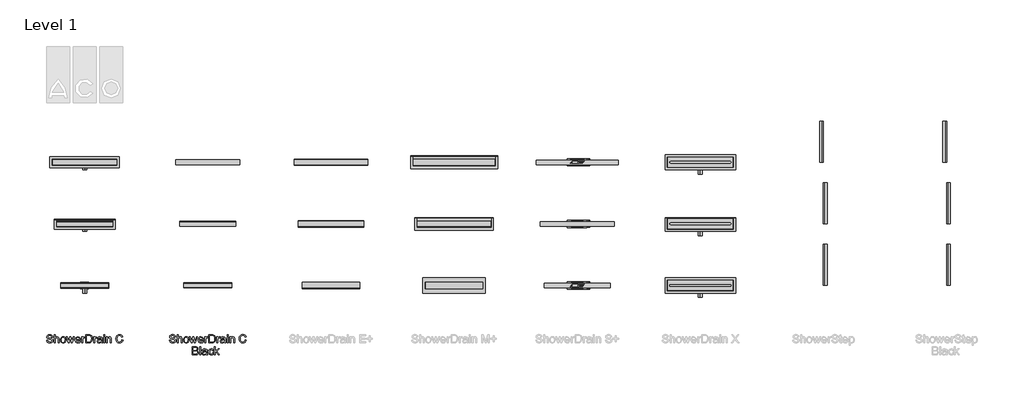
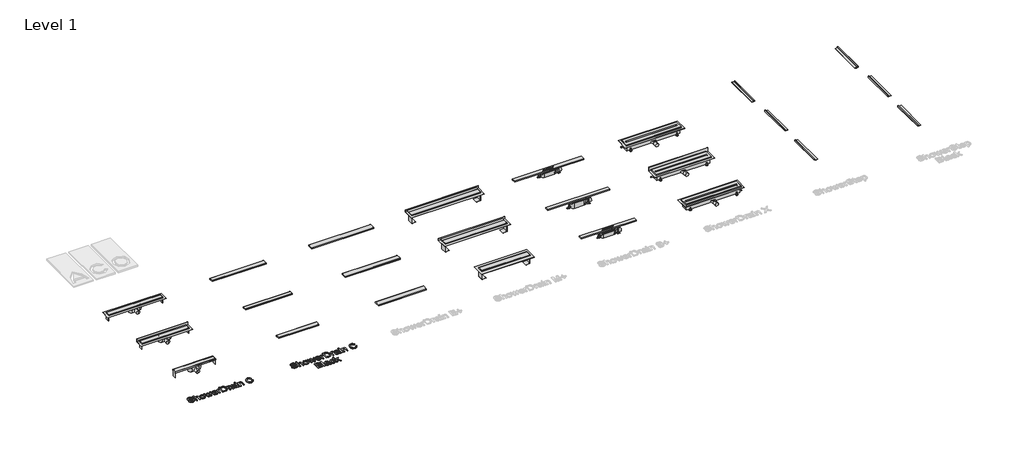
# One storey, part 1 of 3: 34 sanitary terminals, 2 proxies.
"""IFC4 building model written with IfcOpenShell, lengths in millimetres."""

from ifc_helpers import new_model, si_unit, origin, origin_with_axes, place, context, project, spatial, polyline, outline, extrude, transform, mapped, element, save
from components import sanitary_terminal_b0e54eb0, sanitary_terminal_4bfb4d3e, sanitary_terminal_83286328, sanitary_terminal_e4b8e917, glass_black_2b985351, linear_b26b8363, mix_c74ceb65, mix_745113d3, piano_67668155, piano_823838a0, twist_c8336379, wave_fc92086e, horizontal_flange_fb927bfa, horizontal_flange_77aa5604, horizontal_flange_18f63413, no_flange_with_horizontal_connection_4faf3c92, std_nested_d8f77656, std_nested_2f341021, std_nested_3a278fe4, std_nested_42870411, std_nested_2facc37a, std_nested_d991f233, std_nested_00a3679f, wall_flange_c72accb7, wall_flange_at_rear_d2ec3d99, wall_flange_at_rear_64e26d31, wall_flange_with_horizontal_connection_48dca029

model = new_model("IFC4")

# Units and contexts
model_context = context("Model", 3, world=origin())
ifc_project = project(units=[si_unit("LENGTHUNIT", "METRE", prefix="MILLI")], contexts=[model_context])

# Site, building, storey
site = spatial("IfcSite", under=ifc_project)
building = spatial("IfcBuilding", under=site)
storey = spatial("IfcBuildingStorey", under=building, Name="Level 1", Elevation=0.0)

# Proxies
placement = place(None, origin())
element("IfcBuildingElementProxy", 1, Name="100mm ACO", ObjectType="100mm ACO", at=placement, inside=storey, context=model_context, shape_type="SweptSolid", body=[
    extrude(outline(polyline([(597.2962963, -629.6296296), (595.2853009, -620.7356771), (590.8148148, -614.3663194), (574.4953704, -609.2592593), (558.8703704, -613.2378472), (554.3564815, -618.1242766), (552.8518519, -624.8263889), (557.322338, -634.8813657), (575.5081019, -641.1747685), (595.3431713, -646.6579861), (608.494213, -655.5844907), (612.5957755, -662.6663773), (613.962963, -671.8171296), (611.4564525, -683.6552373), (603.9369213, -693.3015046), (592.3881655, -699.714265), (577.7939815, -701.8518519), (559.8107639, -699.4791667), (547.0069444, -692.3611111), (539.1944444, -681.4670139), (536.1851852, -667.7662037), (549.1481481, -666.6666667), (551.7776331, -677.5426794), (557.9878472, -684.9971065), (566.8239294, -689.3048322), (577.3310185, -690.7407407), (594.4606481, -686.009838), (599.365162, -680.4361979), (601.0, -673.1770833), (599.3109086, -665.8492477), (594.2436343, -660.8217593), (570.9652778, -653.3709491), (556.754485, -649.0306713), (547.166088, -643.1568287), (541.7081887, -635.5287905), (539.8888889, -625.9259259), (542.1711516, -614.9305556), (549.0179398, -606.0185185), (559.7999132, -600.1157407), (573.8877315, -598.1481481), (588.4493634, -600.1302083), (599.8425926, -606.0763889), (607.3512731, -615.6684028), (610.2592593, -628.587963), (597.2962963, -629.6296296)])), origin_with_axes(), (0.0, 0.0, 1.0), 10.0),
    extrude(outline(polyline([(689.8888889, -700.0), (676.9259259, -700.0), (676.9259259, -653.2986111), (673.2366898, -639.7135417), (662.2268519, -635.1851852), (649.2928241, -640.5237269), (645.0176505, -647.9564525), (643.5925926, -659.5775463), (643.5925926, -700.0), (630.6296296, -700.0), (630.6296296, -600.0), (643.5925926, -600.0), (643.5925926, -635.8217593), (653.2931134, -628.3998843), (665.1493056, -625.9259259), (678.4305556, -628.7905093), (687.328125, -637.6012731), (689.8888889, -654.1087963), (689.8888889, -700.0)])), origin_with_axes(), (0.0, 0.0, 1.0), 10.0),
    extrude(outline(polyline([(738.0081019, -625.9259259), (751.1844618, -628.3203125), (761.8940972, -635.5034722), (769.0013021, -647.0992477), (771.3703704, -662.7314815), (768.8059896, -681.0040509), (761.1128472, -692.9976852), (750.2078993, -699.6383102), (738.0081019, -701.8518519), (725.4176794, -699.5768229), (714.6140046, -692.7517361), (707.1812789, -680.9859664), (704.7037037, -663.8888889), (707.0980903, -647.1715856), (714.28125, -635.3298611), (725.0017361, -628.2769097), (738.0081019, -625.9259259)]), holes=[polyline([(738.0081019, -692.5925926), (746.8152488, -690.5852141), (753.2135417, -684.5630787), (758.4074074, -663.4259259), (756.9389468, -651.1429398), (752.5335648, -642.3032407), (745.9652778, -636.9646991), (738.0081019, -635.1851852), (729.8953993, -636.9900174), (723.3813657, -642.4045139), (719.0953414, -651.3925058), (717.6666667, -663.9178241), (719.1206597, -676.3997396), (723.4826389, -685.3732639), (730.0219907, -690.7877604), (738.0081019, -692.5925926)])]), origin_with_axes(), (0.0, 0.0, 1.0), 10.0),
    extrude(outline(polyline([(875.537037, -627.7777778), (851.318287, -700.0), (839.0497685, -700.0), (828.5462963, -656.5972222), (827.244213, -650.7378472), (826.0, -644.3287037), (813.2395833, -700.0), (801.0, -700.0), (776.462963, -627.7777778), (788.0081019, -627.7777778), (805.6296296, -685.0115741), (807.7418981, -675.2604167), (818.7662037, -627.7777778), (833.349537, -627.7777778), (842.087963, -665.6539352), (846.1388889, -683.4490741), (863.9918981, -627.7777778), (875.537037, -627.7777778)])), origin_with_axes(), (0.0, 0.0, 1.0), 10.0),
    extrude(outline(polyline([(949.1481481, -666.6666667), (895.4444444, -666.6666667), (897.5169271, -677.7922454), (902.2297454, -685.9375), (909.0114294, -690.9288194), (917.2905093, -692.5925926), (928.9658565, -688.9033565), (936.1851852, -677.7777778), (949.1481481, -679.2824074), (944.7717014, -688.9033565), (937.8344907, -696.0069444), (928.5896991, -700.390625), (917.2905093, -701.8518519), (902.703559, -699.3453414), (891.697338, -691.8258102), (884.7854456, -679.9660012), (882.4814815, -664.4386574), (884.7022569, -648.900463), (891.3645833, -636.6030093), (902.0633681, -628.5951968), (916.3935185, -625.9259259), (931.6134259, -629.3836806), (944.041088, -641.1603009), (947.8713831, -651.6963252), (949.1481481, -666.6666667)]), holes=[polyline([(936.1851852, -657.4074074), (934.1018519, -647.2511574), (929.3564815, -640.3935185), (916.0752315, -635.1851852), (908.2193287, -636.7332176), (901.8969907, -641.3773148), (895.4444444, -657.4074074), (936.1851852, -657.4074074)])]), origin_with_axes(), (0.0, 0.0, 1.0), 10.0),
    extrude(outline(polyline([(1002.8518519, -628.7615741), (998.8009259, -637.037037), (990.2939815, -635.1851852), (984.4997106, -636.8127894), (980.3113426, -641.6956019), (976.9259259, -659.9247685), (976.9259259, -700.0), (963.962963, -700.0), (963.962963, -627.7777778), (975.0740741, -627.7777778), (975.0740741, -638.4837963), (982.0040509, -629.0653935), (990.4386574, -625.9259259), (1002.8518519, -628.7615741)])), origin_with_axes(), (0.0, 0.0, 1.0), 10.0),
    extrude(outline(polyline([(1012.1111111, -600.0), (1046.1388889, -600.0), (1061.5324074, -600.9259259), (1073.8587963, -605.4253472), (1084.1452546, -615.2777778), (1091.0752315, -629.7019676), (1093.5925926, -649.4502315), (1091.0028935, -669.5855035), (1083.2337963, -685.7783565), (1069.1495949, -696.4445891), (1047.6145833, -700.0), (1012.1111111, -700.0), (1012.1111111, -600.0)]), holes=[polyline([(1025.0740741, -688.8888889), (1046.3993056, -688.8888889), (1058.0457176, -688.0497685), (1068.4479167, -683.521412), (1077.171875, -671.4265046), (1080.6296296, -649.1608796), (1079.2986111, -634.8668981), (1074.4085648, -622.7575231), (1066.234375, -614.7569444), (1057.2355324, -611.6608796), (1045.994213, -611.1111111), (1025.0740741, -611.1111111), (1025.0740741, -688.8888889)])]), origin_with_axes(), (0.0, 0.0, 1.0), 10.0),
    extrude(outline(polyline([(1149.1481481, -628.7615741), (1145.0972222, -637.037037), (1136.5902778, -635.1851852), (1130.7960069, -636.8127894), (1126.6076389, -641.6956019), (1123.2222222, -659.9247685), (1123.2222222, -700.0), (1110.2592593, -700.0), (1110.2592593, -627.7777778), (1121.3703704, -627.7777778), (1121.3703704, -638.4837963), (1128.3003472, -629.0653935), (1136.7349537, -625.9259259), (1149.1481481, -628.7615741)])), origin_with_axes(), (0.0, 0.0, 1.0), 10.0),
    extrude(outline(polyline([(1219.5185185, -700.0), (1206.5555556, -700.0), (1202.8518519, -691.2615741), (1190.3590856, -699.2042824), (1176.8969907, -701.8518519), (1166.910735, -700.4050926), (1159.2899306, -696.0648148), (1154.4613715, -689.3518519), (1152.8518519, -680.787037), (1154.4288194, -672.479022), (1159.1597222, -665.7841435), (1167.7896412, -660.8904803), (1181.0636574, -657.9861111), (1192.40625, -656.25), (1202.8518519, -653.7037037), (1202.5190972, -645.6741898), (1200.5804398, -640.7986111), (1195.4155093, -636.7332176), (1185.837963, -635.1851852), (1173.7575231, -638.3246528), (1167.6666667, -650.0), (1154.7037037, -648.4085648), (1158.2591146, -638.599537), (1164.9322917, -631.568287), (1174.7160012, -627.3365162), (1187.6030093, -625.9259259), (1206.859375, -629.7887731), (1214.4114583, -639.1059028), (1215.8148148, -653.1539352), (1215.8148148, -669.6759259), (1216.3645833, -689.9305556), (1219.5185185, -700.0)]), holes=[polyline([(1202.8518519, -667.5925926), (1202.8518519, -662.962963), (1179.5734954, -668.287037), (1169.254485, -672.3451968), (1165.8148148, -680.5844907), (1169.5185185, -689.2071759), (1180.1956019, -692.5925926), (1196.0086806, -686.9212963), (1201.141059, -679.2534722), (1202.8518519, -667.5925926)])]), origin_with_axes(), (0.0, 0.0, 1.0), 10.0),
    extrude(outline(polyline([(1247.2962963, -612.962963), (1234.3333333, -612.962963), (1234.3333333, -600.0), (1247.2962963, -600.0), (1247.2962963, -612.962963)])), origin_with_axes(), (0.0, 0.0, 1.0), 10.0),
    extrude(outline(polyline([(1247.2962963, -700.0), (1234.3333333, -700.0), (1234.3333333, -627.7777778), (1247.2962963, -627.7777778), (1247.2962963, -700.0)])), origin_with_axes(), (0.0, 0.0, 1.0), 10.0),
    extrude(outline(polyline([(1325.0740741, -700.0), (1312.1111111, -700.0), (1312.1111111, -655.0347222), (1308.2482639, -639.4386574), (1297.4988426, -635.1851852), (1287.4728009, -637.9050926), (1280.759838, -645.5729167), (1278.7777778, -659.5775463), (1278.7777778, -700.0), (1265.8148148, -700.0), (1265.8148148, -627.7777778), (1276.9259259, -627.7777778), (1276.9259259, -637.818287), (1286.8217593, -628.8917824), (1300.0740741, -625.9259259), (1311.4456019, -627.9803241), (1320.2418981, -634.1290509), (1324.2494213, -642.8674769), (1325.0740741, -655.4108796), (1325.0740741, -700.0)])), origin_with_axes(), (0.0, 0.0, 1.0), 10.0),
    extrude(outline(polyline([(1467.6666667, -668.1712963), (1461.7530382, -682.9969618), (1452.634838, -693.5040509), (1440.8473669, -699.7649016), (1426.9259259, -701.8518519), (1406.0202546, -697.9962384), (1391.6828704, -686.4293981), (1383.3929398, -669.4372106), (1380.6296296, -649.3055556), (1383.8739873, -627.9188368), (1393.6070602, -611.7332176), (1408.4399595, -601.5444155), (1426.9837963, -598.1481481), (1440.2975984, -599.9602141), (1451.5353009, -605.396412), (1460.2050058, -614.3265336), (1465.8148148, -626.6203704), (1452.8518519, -629.6296296), (1442.9994213, -614.3663194), (1426.4918981, -609.2592593), (1412.2702546, -611.968316), (1401.9548611, -620.0954861), (1395.6831597, -632.7799479), (1393.5925926, -649.1608796), (1395.8061343, -667.5238715), (1402.4467593, -680.4832176), (1412.646412, -688.17636), (1425.537037, -690.7407407), (1436.1056134, -689.1239873), (1444.4895833, -684.2737269), (1450.6889468, -676.1754919), (1454.7037037, -664.8148148), (1467.6666667, -668.1712963)])), origin_with_axes(), (0.0, 0.0, 1.0), 10.0),
])
element("IfcBuildingElementProxy", 2, Name="100mm ACO", ObjectType="100mm ACO", at=placement, inside=storey, context=model_context, shape_type="SweptSolid", body=[
    extrude(outline(polyline([(2094.9367074, -629.2183251), (2092.9139581, -620.2723888), (2088.4173426, -613.8658032), (2081.4468611, -610.0131205), (2072.0025134, -608.728893), (2056.2861876, -612.7307352), (2051.7459157, -617.645725), (2050.2324917, -624.3870102), (2054.7291072, -634.5007569), (2073.0211642, -640.8309437), (2092.9721667, -646.3462099), (2106.2000743, -655.3248886), (2110.3256098, -662.4481678), (2111.7007883, -671.6524049), (2109.1796277, -683.5597045), (2101.6161459, -693.2623529), (2089.9998893, -699.712595), (2075.3204044, -701.8626757), (2057.2320776, -699.4761225), (2044.3534217, -692.3164629), (2036.4952588, -681.3586913), (2033.4684108, -667.5778019), (2046.5071404, -666.4718382), (2049.1519943, -677.4114197), (2055.3985062, -684.9094168), (2064.286234, -689.2423205), (2074.8547355, -690.6866217), (2092.0844853, -685.9280675), (2097.0176654, -680.3218504), (2098.6620587, -673.0203073), (2096.9630948, -665.6496416), (2091.866203, -660.5927682), (2068.451788, -653.0984091), (2054.1579351, -648.7327631), (2044.5134954, -642.8245887), (2039.0236954, -635.1519658), (2037.1937621, -625.4929738), (2039.4893644, -614.4333371), (2046.376171, -605.4692106), (2057.2211635, -599.5319319), (2071.391323, -597.552839), (2086.0380655, -599.5464841), (2097.4978864, -605.5274192), (2105.0504541, -615.175497), (2107.975437, -628.1705701), (2094.9367074, -629.2183251)])), origin_with_axes(), (0.0, 0.0, 1.0), 10.0),
    extrude(outline(polyline([(2188.0704901, -700.0), (2175.0317605, -700.0), (2175.0317605, -653.0256483), (2171.3209614, -639.3611762), (2160.2467725, -634.8063521), (2147.2371473, -640.1760968), (2142.9369859, -647.6522657), (2141.5035988, -659.341283), (2141.5035988, -700.0), (2128.4648692, -700.0), (2128.4648692, -599.4155147), (2141.5035988, -599.4155147), (2141.5035988, -635.4466469), (2151.2608177, -627.9813921), (2163.1863076, -625.4929738), (2176.5451845, -628.3743002), (2185.4947589, -637.2365618), (2188.0704901, -653.8405689), (2188.0704901, -700.0)])), origin_with_axes(), (0.0, 0.0, 1.0), 10.0),
    extrude(outline(polyline([(2236.4709528, -625.4929738), (2249.7243267, -627.9013552), (2260.4965583, -635.1264995), (2267.6453038, -646.7900506), (2270.0282189, -662.5136525), (2267.4488497, -680.8930224), (2259.710742, -692.9567577), (2248.7420563, -699.6361962), (2236.4709528, -701.8626757), (2223.8069412, -699.5743495), (2212.9401205, -692.7093711), (2205.4639516, -680.8748322), (2202.9718954, -663.6778247), (2205.3802768, -646.8628113), (2212.605421, -634.9518736), (2223.3885668, -627.8576988), (2236.4709528, -625.4929738)]), holes=[polyline([(2236.4709528, -692.5492974), (2245.3295763, -690.5301861), (2251.7652662, -684.4728522), (2256.9894893, -663.2121558), (2255.5124457, -650.8573775), (2251.081315, -641.9660117), (2244.4746373, -636.596267), (2236.4709528, -634.8063521), (2228.3108327, -636.6217333), (2221.7587256, -642.0678767), (2217.4476501, -651.1084021), (2216.0106249, -663.7069291), (2217.4731164, -676.2617995), (2221.8605907, -685.2877728), (2228.4381641, -690.7339162), (2236.4709528, -692.5492974)])]), origin_with_axes(), (0.0, 0.0, 1.0), 10.0),
    extrude(outline(polyline([(2374.8037244, -627.3556495), (2350.4434194, -700.0), (2338.1031932, -700.0), (2327.5383297, -656.3435394), (2326.2286359, -650.4499172), (2324.9771507, -644.0033131), (2312.1421513, -700.0), (2299.8310294, -700.0), (2275.1505769, -627.3556495), (2286.7631955, -627.3556495), (2304.4877185, -684.9239689), (2306.6123329, -675.1158174), (2317.7010739, -627.3556495), (2332.3696447, -627.3556495), (2341.1591454, -665.4531875), (2345.2337484, -683.3523363), (2363.1911059, -627.3556495), (2374.8037244, -627.3556495)])), origin_with_axes(), (0.0, 0.0, 1.0), 10.0),
    extrude(outline(polyline([(2448.8450817, -666.4718382), (2394.8274877, -666.4718382), (2396.9120837, -677.6624443), (2401.6524477, -685.8553068), (2408.4737697, -690.8757997), (2416.8012396, -692.5492974), (2428.5448275, -688.8384982), (2435.8063521, -677.6478922), (2448.8450817, -679.1613161), (2444.4430552, -688.8384982), (2437.4652976, -695.9836056), (2428.1664715, -700.3929081), (2416.8012396, -701.8626757), (2402.1290308, -699.3415151), (2391.0584799, -691.7780332), (2384.1061886, -679.8489054), (2381.7887581, -664.2308066), (2384.0225137, -648.6017937), (2390.7237804, -636.2324632), (2401.485098, -628.1778462), (2415.8990061, -625.4929738), (2431.2078716, -628.9709385), (2443.7081715, -640.8163915), (2447.5608541, -651.4139973), (2448.8450817, -666.4718382)]), holes=[polyline([(2435.8063521, -657.15846), (2433.710842, -646.9428482), (2428.9377356, -640.0451274), (2415.5788587, -634.8063521), (2407.6770393, -636.3634325), (2401.3177482, -641.0346738), (2394.8274877, -657.15846), (2435.8063521, -657.15846)])]), origin_with_axes(), (0.0, 0.0, 1.0), 10.0),
    extrude(outline(polyline([(2502.8626757, -628.3451959), (2498.7880727, -636.6690278), (2490.2314064, -634.8063521), (2484.4032689, -636.4434694), (2480.1904204, -641.3548212), (2476.7852165, -659.6905347), (2476.7852165, -700.0), (2463.7464869, -700.0), (2463.7464869, -627.3556495), (2474.9225408, -627.3556495), (2474.9225408, -638.1242431), (2481.8930224, -628.6507912), (2490.3769279, -625.4929738), (2502.8626757, -628.3451959)])), origin_with_axes(), (0.0, 0.0, 1.0), 10.0),
    extrude(outline(polyline([(2512.1760539, -599.4155147), (2546.4027191, -599.4155147), (2561.8862104, -600.3468525), (2574.2846453, -604.8725723), (2584.6312264, -614.7825888), (2591.601708, -629.2910859), (2594.1337827, -649.1547755), (2591.5289472, -669.4077352), (2583.7144408, -685.6952331), (2569.5479193, -696.4238083), (2547.8870387, -700.0), (2512.1760539, -700.0), (2512.1760539, -599.4155147)]), holes=[polyline([(2525.2147835, -688.8239461), (2546.6646578, -688.8239461), (2558.3791414, -687.9799212), (2568.8421398, -683.4250971), (2577.6170884, -671.2594967), (2581.0950531, -648.8637324), (2579.756255, -634.4862047), (2574.8376271, -622.3060522), (2566.6156603, -614.2587113), (2557.5642208, -611.1445504), (2546.2571975, -610.5915686), (2525.2147835, -610.5915686), (2525.2147835, -688.8239461)])]), origin_with_axes(), (0.0, 0.0, 1.0), 10.0),
    extrude(outline(polyline([(2650.0140523, -628.3451959), (2645.9394493, -636.6690278), (2637.382783, -634.8063521), (2631.5546456, -636.4434694), (2627.3417971, -641.3548212), (2623.9365932, -659.6905347), (2623.9365932, -700.0), (2610.8978636, -700.0), (2610.8978636, -627.3556495), (2622.0739175, -627.3556495), (2622.0739175, -638.1242431), (2629.0443991, -628.6507912), (2637.5283046, -625.4929738), (2650.0140523, -628.3451959)])), origin_with_axes(), (0.0, 0.0, 1.0), 10.0),
    extrude(outline(polyline([(2720.7957272, -700.0), (2707.7569976, -700.0), (2704.0316463, -691.2104993), (2691.4658617, -699.1996316), (2677.9250828, -701.8626757), (2667.8804588, -700.4074603), (2660.215112, -696.0418142), (2655.3583307, -689.289615), (2653.7394036, -680.6747401), (2655.3255884, -672.3181659), (2660.0841426, -665.5841569), (2668.7645022, -660.6618909), (2682.1161031, -657.7405461), (2693.5249914, -655.9942877), (2704.0316463, -653.4331086), (2703.6969468, -645.3566634), (2701.7469582, -640.4525877), (2696.5518394, -636.3634325), (2686.9183137, -634.8063521), (2674.7672655, -637.9641694), (2668.6408089, -649.7077573), (2655.6020793, -648.1070205), (2659.178271, -638.2406603), (2665.8904518, -631.1683137), (2675.7313457, -626.9118088), (2688.6936765, -625.4929738), (2708.0625928, -629.3783988), (2715.658817, -638.7499857), (2717.0703759, -652.8801268), (2717.0703759, -669.4986862), (2717.6233577, -689.8717011), (2720.7957272, -700.0)]), holes=[polyline([(2704.0316463, -667.4031761), (2704.0316463, -662.7464869), (2680.6172312, -668.1016794), (2670.2379077, -672.1835585), (2666.7781332, -680.4710099), (2670.5034845, -689.1440935), (2681.2429738, -692.5492974), (2697.1484777, -686.8448532), (2702.3108541, -679.1322118), (2704.0316463, -667.4031761)])]), origin_with_axes(), (0.0, 0.0, 1.0), 10.0),
    extrude(outline(polyline([(2748.735862, -612.4542443), (2735.6971324, -612.4542443), (2735.6971324, -599.4155147), (2748.735862, -599.4155147), (2748.735862, -612.4542443)])), origin_with_axes(), (0.0, 0.0, 1.0), 10.0),
    extrude(outline(polyline([(2748.735862, -700.0), (2735.6971324, -700.0), (2735.6971324, -627.3556495), (2748.735862, -627.3556495), (2748.735862, -700.0)])), origin_with_axes(), (0.0, 0.0, 1.0), 10.0),
    extrude(outline(polyline([(2826.9682395, -700.0), (2813.9295099, -700.0), (2813.9295099, -654.7719068), (2810.0440849, -639.0846853), (2799.2318348, -634.8063521), (2789.1471924, -637.542157), (2782.3949931, -645.2547984), (2780.4013481, -659.341283), (2780.4013481, -700.0), (2767.3626185, -700.0), (2767.3626185, -627.3556495), (2778.5386725, -627.3556495), (2778.5386725, -637.4548441), (2788.4923455, -628.4761653), (2801.8221181, -625.4929738), (2813.2601108, -627.5593796), (2822.1078202, -633.7440449), (2826.1387667, -642.5335456), (2826.9682395, -655.1502628), (2826.9682395, -700.0)])), origin_with_axes(), (0.0, 0.0, 1.0), 10.0),
    extrude(outline(polyline([(2970.3942648, -667.9852622), (2964.4460721, -682.8975815), (2955.2745773, -693.4660831), (2943.4182102, -699.7635275), (2929.4154004, -701.8626757), (2908.3875386, -697.9845267), (2893.9663544, -686.35008), (2885.6279704, -669.2585756), (2882.8485091, -649.009254), (2886.1118295, -627.497533), (2895.9017908, -611.2173112), (2910.8213862, -600.9689571), (2929.473609, -597.552839), (2942.8652284, -599.3754963), (2954.1686136, -604.843468), (2962.8889916, -613.8257847), (2968.5315892, -626.1914772), (2955.4928596, -629.2183251), (2945.582843, -613.8658032), (2928.9788358, -608.728893), (2914.6740689, -611.4537837), (2904.2983834, -619.628456), (2897.9900248, -632.3870566), (2895.8872387, -648.8637324), (2898.1137182, -667.3340533), (2904.7931566, -680.3691449), (2915.0524249, -688.1072525), (2928.0183937, -690.6866217), (2938.6487419, -689.0604186), (2947.0817148, -684.1818091), (2953.3173126, -676.0362411), (2957.3555352, -664.6091626), (2970.3942648, -667.9852622)])), origin_with_axes(), (0.0, 0.0, 1.0), 10.0),
    extrude(outline(polyline([(2366.1015366, -793.4515309), (2380.6827945, -802.7358049), (2385.5141094, -817.5498972), (2381.3521935, -832.9460756), (2369.5212927, -843.2635525), (2348.7262653, -846.5668914), (2311.0070833, -846.5668914), (2311.0070833, -745.982406), (2347.5911973, -745.982406), (2362.729075, -747.9906032), (2372.6354536, -754.0151948), (2378.1034253, -762.4918242), (2379.9260825, -771.856135), (2376.4917742, -784.1381526), (2366.1015366, -793.4515309)]), holes=[polyline([(2324.0458129, -788.8239461), (2344.9718097, -788.8239461), (2355.7986119, -788.0381298), (2363.5258054, -783.8616617), (2366.8873529, -773.3404547), (2363.4967011, -762.2953702), (2355.4057038, -757.9442762), (2343.3419685, -757.15846), (2324.0458129, -757.15846), (2324.0458129, -788.8239461)]), polyline([(2324.0458129, -835.3908374), (2348.8426825, -835.3908374), (2360.1096874, -834.215751), (2367.3093654, -830.6904918), (2372.4753799, -817.6954187), (2371.1002014, -810.2629063), (2366.9746658, -804.6712413), (2359.2620244, -801.1678103), (2347.1255284, -800.0), (2324.0458129, -800.0), (2324.0458129, -835.3908374)])]), origin_with_axes(), (0.0, 0.0, 1.0), 10.0),
    extrude(outline(polyline([(2415.3169199, -846.5668914), (2402.2781903, -846.5668914), (2402.2781903, -745.982406), (2415.3169199, -745.982406), (2415.3169199, -846.5668914)])), origin_with_axes(), (0.0, 0.0, 1.0), 10.0),
    extrude(outline(polyline([(2497.2746487, -846.5668914), (2484.2359191, -846.5668914), (2480.5105678, -837.7773906), (2467.9447832, -845.7665229), (2454.4040043, -848.429567), (2444.3593804, -846.9743517), (2436.6940335, -842.6087056), (2431.8372522, -835.8565063), (2430.2183251, -827.2416314), (2431.8045099, -818.8850573), (2436.5630641, -812.1510482), (2445.2434237, -807.2287823), (2458.5950246, -804.3074374), (2470.0039129, -802.561179), (2480.5105678, -800.0), (2480.1758683, -791.9235548), (2478.2258797, -787.019479), (2473.0307609, -782.9303239), (2463.3972352, -781.3732435), (2451.246187, -784.5310608), (2445.1197304, -796.2746487), (2432.0810008, -794.6739118), (2435.6571925, -784.8075517), (2442.3693734, -777.7352051), (2452.2102672, -773.4787002), (2465.172598, -772.0598652), (2484.5415143, -775.9452902), (2492.1377385, -785.3168771), (2493.5492974, -799.4470182), (2493.5492974, -816.0655775), (2494.1022792, -836.4385925), (2497.2746487, -846.5668914)]), holes=[polyline([(2480.5105678, -813.9700674), (2480.5105678, -809.3133783), (2457.0961527, -814.6685708), (2446.7168292, -818.7504498), (2443.2570547, -827.0379013), (2446.982406, -835.7109848), (2457.7218954, -839.1161887), (2473.6273992, -833.4117445), (2478.7897756, -825.6991032), (2480.5105678, -813.9700674)])]), origin_with_axes(), (0.0, 0.0, 1.0), 10.0),
    extrude(outline(polyline([(2573.6443505, -821.9737519), (2569.5915757, -833.8483092), (2562.3809837, -842.0557238), (2553.0021207, -846.8361062), (2542.4445333, -848.429567), (2528.0451774, -845.8247315), (2517.3275163, -838.0102251), (2510.669906, -825.8955572), (2508.4507026, -810.3902376), (2513.5148521, -787.5724609), (2526.1897778, -775.5378299), (2542.1825945, -772.0598652), (2552.7947525, -773.4823382), (2561.7552411, -777.7497572), (2568.3291764, -784.7748094), (2571.7816749, -794.4701817), (2558.7429453, -796.2746487), (2552.8056666, -785.1131469), (2542.3281161, -781.3732435), (2533.320333, -783.2686615), (2526.7864161, -788.9549155), (2522.8136782, -798.0390973), (2521.4894322, -810.1282989), (2522.8173162, -822.4285067), (2526.8009682, -831.563621), (2533.2875907, -837.2280468), (2542.1243859, -839.1161887), (2554.7993117, -834.4594996), (2560.6056209, -820.4894322), (2573.6443505, -821.9737519)])), origin_with_axes(), (0.0, 0.0, 1.0), 10.0),
    extrude(outline(polyline([(2642.5633497, -846.5668914), (2629.6119331, -846.5668914), (2603.3598481, -808.3820404), (2594.1337827, -816.7640809), (2594.1337827, -846.5668914), (2581.0950531, -846.5668914), (2581.0950531, -745.982406), (2594.1337827, -745.982406), (2594.1337827, -802.2992403), (2625.3044956, -773.9225408), (2641.166343, -773.9225408), (2611.3053239, -801.1059637), (2642.5633497, -846.5668914)])), origin_with_axes(), (0.0, 0.0, 1.0), 10.0),
])

# Sanitary terminals
sanitary_terminal_shape = sanitary_terminal_b0e54eb0(model_context)
element("IfcSanitaryTerminal", 3, ObjectType="PF_UN_ShowerDrain C (INT)_ACO : surrounding flange with horizontal connection", at=placement, inside=storey, context=model_context, shape_type="MappedRepresentation", body=[
    mapped(sanitary_terminal_shape, transform((1000.0, 1500.0, 0.0), x_axis=(1.0, 0.0, 0.0), y_axis=(0.0, 1.0, 0.0), z_axis=(0.0, 0.0, 1.0))),
])
sanitary_terminal_2_shape = sanitary_terminal_4bfb4d3e(model_context)
element("IfcSanitaryTerminal", 4, ObjectType="PF_UN_ShowerDrain S+_ACO : watertrap H=30", at=placement, inside=storey, context=model_context, shape_type="MappedRepresentation", body=[
    mapped(sanitary_terminal_2_shape, transform((7001.0, 0.0, 0.0), x_axis=(1.0, 0.0, 0.0), y_axis=(0.0, 1.0, 0.0), z_axis=(0.0, 0.0, 1.0))),
])
sanitary_terminal_3_shape = sanitary_terminal_83286328(model_context)
element("IfcSanitaryTerminal", 5, ObjectType="PF_UN_ShowerDrain S+_ACO : watertrap H=50", at=placement, inside=storey, context=model_context, shape_type="MappedRepresentation", body=[
    mapped(sanitary_terminal_3_shape, transform((7001.0, 750.0, 0.0), x_axis=(1.0, 0.0, 0.0), y_axis=(0.0, 1.0, 0.0), z_axis=(0.0, 0.0, 1.0))),
])
sanitary_terminal_4_shape = sanitary_terminal_e4b8e917(model_context)
element("IfcSanitaryTerminal", 6, ObjectType="PF_UN_ShowerDrain S+_ACO : watertrap H=30", at=placement, inside=storey, context=model_context, shape_type="MappedRepresentation", body=[
    mapped(sanitary_terminal_4_shape, transform((7001.0, 1500.0, 0.0), x_axis=(1.0, 0.0, 0.0), y_axis=(0.0, 1.0, 0.0), z_axis=(0.0, 0.0, 1.0))),
])
glass_black_shape = glass_black_2b985351(model_context)
element("IfcSanitaryTerminal", 7, ObjectType="ZZZ_do not use_PF_UN_grating for ShowerDrain E and M series_ACO : Glass black", at=placement, inside=storey, context=model_context, shape_type="MappedRepresentation", body=[
    mapped(glass_black_shape, transform((5501.0, 1500.0, 15.0), x_axis=(1.0, 0.0, 0.0), y_axis=(0.0, 1.0, 0.0), z_axis=(0.0, 0.0, 1.0))),
])
linear_shape = linear_b26b8363(model_context)
element("IfcSanitaryTerminal", 8, ObjectType="ZZZ_do not use_PF_UN_grating for ShowerDrain E and M series_ACO : Linear", at=placement, inside=storey, context=model_context, shape_type="MappedRepresentation", body=[
    mapped(linear_shape, transform((5501.0, 750.0, 15.0), x_axis=(1.0, 0.0, 0.0), y_axis=(0.0, 1.0, 0.0), z_axis=(0.0, 0.0, 1.0))),
])
mix_shape = mix_c74ceb65(model_context)
element("IfcSanitaryTerminal", 9, ObjectType="ZZZ_do not use_PF_UN_grating for ShowerDrain E and M series_ACO : Mix", at=placement, inside=storey, context=model_context, shape_type="MappedRepresentation", body=[
    mapped(mix_shape, transform((4001.0, 0.0, 15.0), x_axis=(1.0, 0.0, 0.0), y_axis=(0.0, 1.0, 0.0), z_axis=(0.0, 0.0, 1.0))),
])
mix_2_shape = mix_745113d3(model_context)
element("IfcSanitaryTerminal", 10, ObjectType="ZZZ_do not use_PF_UN_grating for ShowerDrain E and M series_ACO : Mix", at=placement, inside=storey, context=model_context, shape_type="MappedRepresentation", body=[
    mapped(mix_2_shape, transform((4001.0, 750.0, 15.0), x_axis=(1.0, 0.0, 0.0), y_axis=(0.0, 1.0, 0.0), z_axis=(0.0, 0.0, 1.0))),
])
element("IfcSanitaryTerminal", 11, ObjectType="ZZZ_do not use_PF_UN_grating for ShowerDrain E and M series_ACO : Mix", at=placement, inside=storey, context=model_context, shape_type="MappedRepresentation", body=[
    mapped(linear_shape, transform((4001.0, 1500.0, 15.0), x_axis=(1.0, 0.0, 0.0), y_axis=(0.0, 1.0, 0.0), z_axis=(0.0, 0.0, 1.0))),
])
piano_shape = piano_67668155(model_context)
element("IfcSanitaryTerminal", 12, ObjectType="ZZZ_do not use_PF_UN_grating ShowerDrain C (INT)_ACO : Piano", at=placement, inside=storey, context=model_context, shape_type="MappedRepresentation", body=[
    mapped(piano_shape, transform((1000.0, 1500.0, 12.0), x_axis=(1.0, 0.0, 0.0), y_axis=(0.0, 1.0, 0.0), z_axis=(0.0, 0.0, 1.0))),
])
piano_2_shape = piano_823838a0(model_context)
element("IfcSanitaryTerminal", 13, ObjectType="ZZZ_do not use_PF_UN_grating ShowerDrain C (INT)_ACO : Piano", at=placement, inside=storey, context=model_context, shape_type="MappedRepresentation", body=[
    mapped(piano_2_shape, transform((2501.0, 750.0, 12.0), x_axis=(1.0, 0.0, 0.0), y_axis=(0.0, 1.0, 0.0), z_axis=(0.0, 0.0, 1.0))),
])
twist_shape = twist_c8336379(model_context)
element("IfcSanitaryTerminal", 14, ObjectType="ZZZ_do not use_PF_UN_grating for ShowerDrain E and M series_ACO : Twist", at=placement, inside=storey, context=model_context, shape_type="MappedRepresentation", body=[
    mapped(twist_shape, transform((5501.0, 0.0, 15.0), x_axis=(1.0, 0.0, 0.0), y_axis=(0.0, 1.0, 0.0), z_axis=(0.0, 0.0, 1.0))),
])
ifc_wave_shape = wave_fc92086e(model_context)
element("IfcSanitaryTerminal", 15, ObjectType="ZZZ_do not use_PF_UN_grating ShowerDrain C (INT)_ACO : Wave", at=placement, inside=storey, context=model_context, shape_type="MappedRepresentation", body=[
    mapped(ifc_wave_shape, transform((1000.0, 0.0, 12.0), x_axis=(1.0, 0.0, 0.0), y_axis=(0.0, 1.0, 0.0), z_axis=(0.0, 0.0, 1.0))),
])
element("IfcSanitaryTerminal", 16, ObjectType="ZZZ_do not use_PF_UN_grating ShowerDrain C (INT)_ACO : Wave", at=placement, inside=storey, context=model_context, shape_type="MappedRepresentation", body=[
    mapped(ifc_wave_shape, transform((2501.0, 0.0, 12.0), x_axis=(1.0, 0.0, 0.0), y_axis=(0.0, 1.0, 0.0), z_axis=(0.0, 0.0, 1.0))),
])
element("IfcSanitaryTerminal", 17, ObjectType="ZZZ_do not use_PF_UN_grating ShowerDrain C (INT)_ACO : Wave", at=placement, inside=storey, context=model_context, shape_type="MappedRepresentation", body=[
    mapped(piano_2_shape, transform((1000.0, 750.0, 12.0), x_axis=(1.0, 0.0, 0.0), y_axis=(0.0, 1.0, 0.0), z_axis=(0.0, 0.0, 1.0))),
])
element("IfcSanitaryTerminal", 18, ObjectType="ZZZ_do not use_PF_UN_grating ShowerDrain C (INT)_ACO : Wave", at=placement, inside=storey, context=model_context, shape_type="MappedRepresentation", body=[
    mapped(piano_shape, transform((2501.0, 1500.0, 12.0), x_axis=(1.0, 0.0, 0.0), y_axis=(0.0, 1.0, 0.0), z_axis=(0.0, 0.0, 1.0))),
])
horizontal_flange_shape = horizontal_flange_fb927bfa(model_context)
element("IfcSanitaryTerminal", 19, ObjectType="PF_UN_ShowerDrain X_ACO : horizontal flange", at=placement, inside=storey, context=model_context, shape_type="MappedRepresentation", body=[
    mapped(horizontal_flange_shape, transform((8501.0, -1.0, 0.0), x_axis=(1.0, 0.0, 0.0), y_axis=(0.0, 1.0, 0.0), z_axis=(0.0, 0.0, 1.0))),
])
horizontal_flange_2_shape = horizontal_flange_77aa5604(model_context)
element("IfcSanitaryTerminal", 20, ObjectType="PF_UN_ShowerDrain M plus_ACO : horizontal flange", at=placement, inside=storey, context=model_context, shape_type="MappedRepresentation", body=[
    mapped(horizontal_flange_2_shape, transform((5501.0, 0.0, 0.0), x_axis=(1.0, 0.0, 0.0), y_axis=(0.0, 1.0, 0.0), z_axis=(0.0, 0.0, 1.0))),
])
horizontal_flange_3_shape = horizontal_flange_18f63413(model_context)
element("IfcSanitaryTerminal", 21, ObjectType="PF_UN_ShowerDrain X_ACO : horizontal flange", at=placement, inside=storey, context=model_context, shape_type="MappedRepresentation", body=[
    mapped(horizontal_flange_3_shape, transform((8501.0, 1500.0, 0.0), x_axis=(1.0, 0.0, 0.0), y_axis=(0.0, 1.0, 0.0), z_axis=(0.0, 0.0, 1.0))),
])
no_flange_with_horizontal_connection_shape = no_flange_with_horizontal_connection_4faf3c92(model_context)
element("IfcSanitaryTerminal", 22, ObjectType="PF_UN_ShowerDrain C (INT)_ACO : no flange with horizontal connection", at=placement, inside=storey, context=model_context, shape_type="MappedRepresentation", body=[
    mapped(no_flange_with_horizontal_connection_shape, transform((1000.0, 0.0, 0.0), x_axis=(1.0, 0.0, 0.0), y_axis=(0.0, 1.0, 0.0), z_axis=(0.0, 0.0, 1.0))),
])
std_nested_shape = std_nested_d8f77656(model_context)
element("IfcSanitaryTerminal", 23, ObjectType="ZZZ_do not use_PF_WPB_extension ShowerDrain S+_ACO : std (nested)", at=placement, inside=storey, context=model_context, shape_type="MappedRepresentation", body=[
    mapped(std_nested_shape, transform((7001.0, 0.0, -15.0), x_axis=(1.0, 0.0, 0.0), y_axis=(0.0, 1.0, 0.0), z_axis=(0.0, 0.0, 1.0))),
])
std_nested_2_shape = std_nested_2f341021(model_context)
element("IfcSanitaryTerminal", 24, ObjectType="ZZZ_do not use_PF_UN_ShowerStep_ACO : std (nested)", at=placement, inside=storey, context=model_context, shape_type="MappedRepresentation", body=[
    mapped(std_nested_2_shape, transform((10001.0, 0.0, 0.0), x_axis=(0.0, 1.0, 0.0), y_axis=(-1.0, 0.0, 0.0), z_axis=(0.0, 0.0, 1.0))),
])
std_nested_3_shape = std_nested_3a278fe4(model_context)
element("IfcSanitaryTerminal", 25, ObjectType="ZZZ_do not use_PF_UN_ShowerStep_ACO : std (nested)", at=placement, inside=storey, context=model_context, shape_type="MappedRepresentation", body=[
    mapped(std_nested_3_shape, transform((10001.0, 750.0, 0.0), x_axis=(0.0, 1.0, 0.0), y_axis=(-1.0, 0.0, 0.0), z_axis=(0.0, 0.0, 1.0))),
])
std_nested_4_shape = std_nested_42870411(model_context)
element("IfcSanitaryTerminal", 26, ObjectType="ZZZ_do not use_PF_UN_ShowerStep_ACO : std (nested)", at=placement, inside=storey, context=model_context, shape_type="MappedRepresentation", body=[
    mapped(std_nested_4_shape, transform((10001.0, 1500.0, 0.0), x_axis=(0.0, 1.0, 0.0), y_axis=(-1.0, 0.0, 0.0), z_axis=(0.0, 0.0, 1.0))),
])
std_nested_5_shape = std_nested_2facc37a(model_context)
element("IfcSanitaryTerminal", 27, ObjectType="ZZZ_do not use_PF_WPB_floor drain ShowerDrain S+_ACO : std (nested)", at=placement, inside=storey, context=model_context, shape_type="MappedRepresentation", body=[
    mapped(std_nested_5_shape, transform((7001.0, 0.0, -35.0), x_axis=(1.0, 0.0, 0.0), y_axis=(0.0, 1.0, 0.0), z_axis=(0.0, 0.0, 1.0))),
])
element("IfcSanitaryTerminal", 28, ObjectType="ZZZ_do not use_PF_WPB_floor drain ShowerDrain S+_ACO : std (nested)", at=placement, inside=storey, context=model_context, shape_type="MappedRepresentation", body=[
    mapped(std_nested_5_shape, transform((7001.0, 1500.0, -15.0), x_axis=(1.0, 0.0, 0.0), y_axis=(0.0, 1.0, 0.0), z_axis=(0.0, 0.0, 1.0))),
])
std_nested_6_shape = std_nested_d991f233(model_context)
element("IfcSanitaryTerminal", 29, ObjectType="ZZZ_do not use_PF_WPB_floor drain ShowerDrain S+_ACO : std (nested)", at=placement, inside=storey, context=model_context, shape_type="MappedRepresentation", body=[
    mapped(std_nested_6_shape, transform((7001.0, 750.0, -15.0), x_axis=(1.0, 0.0, 0.0), y_axis=(0.0, 1.0, 0.0), z_axis=(0.0, 0.0, 1.0))),
])
element("IfcSanitaryTerminal", 30, ObjectType="ZZZ_do not use_PF_UN_ShowerStep Black_ACO : std(nested)", at=placement, inside=storey, context=model_context, shape_type="MappedRepresentation", body=[
    mapped(std_nested_2_shape, transform((11501.0, 0.0, 0.0), x_axis=(0.0, 1.0, 0.0), y_axis=(-1.0, 0.0, 0.0), z_axis=(0.0, 0.0, 1.0))),
])
element("IfcSanitaryTerminal", 31, ObjectType="ZZZ_do not use_PF_UN_ShowerStep Black_ACO : std(nested)", at=placement, inside=storey, context=model_context, shape_type="MappedRepresentation", body=[
    mapped(std_nested_3_shape, transform((11501.0, 750.0, 0.0), x_axis=(0.0, 1.0, 0.0), y_axis=(-1.0, 0.0, 0.0), z_axis=(0.0, 0.0, 1.0))),
])
std_nested_7_shape = std_nested_00a3679f(model_context)
element("IfcSanitaryTerminal", 32, ObjectType="ZZZ_do not use_PF_UN_ShowerStep Black_ACO : std(nested)", at=placement, inside=storey, context=model_context, shape_type="MappedRepresentation", body=[
    mapped(std_nested_7_shape, transform((11501.0, 1500.0, 0.0), x_axis=(0.0, 1.0, 0.0), y_axis=(-1.0, 0.0, 0.0), z_axis=(0.0, 0.0, 1.0))),
])
wall_flange_shape = wall_flange_c72accb7(model_context)
element("IfcSanitaryTerminal", 33, ObjectType="PF_UN_ShowerDrain X_ACO : wall flange", at=placement, inside=storey, context=model_context, shape_type="MappedRepresentation", body=[
    mapped(wall_flange_shape, transform((8501.0, 750.0, 0.0), x_axis=(1.0, 0.0, 0.0), y_axis=(0.0, 1.0, 0.0), z_axis=(0.0, 0.0, 1.0))),
])
wall_flange_at_rear_shape = wall_flange_at_rear_d2ec3d99(model_context)
element("IfcSanitaryTerminal", 34, ObjectType="PF_UN_ShowerDrain M plus_ACO : wall flange at rear", at=placement, inside=storey, context=model_context, shape_type="MappedRepresentation", body=[
    mapped(wall_flange_at_rear_shape, transform((5501.0, 750.0, 0.0), x_axis=(1.0, 0.0, 0.0), y_axis=(0.0, 1.0, 0.0), z_axis=(0.0, 0.0, 1.0))),
])
wall_flange_at_rear_2_shape = wall_flange_at_rear_64e26d31(model_context)
element("IfcSanitaryTerminal", 35, ObjectType="PF_UN_ShowerDrain M plus_ACO : wall flange at rear", at=placement, inside=storey, context=model_context, shape_type="MappedRepresentation", body=[
    mapped(wall_flange_at_rear_2_shape, transform((5501.0, 1500.0, 0.0), x_axis=(1.0, 0.0, 0.0), y_axis=(0.0, 1.0, 0.0), z_axis=(0.0, 0.0, 1.0))),
])
wall_flange_with_horizontal_connection_shape = wall_flange_with_horizontal_connection_48dca029(model_context)
element("IfcSanitaryTerminal", 36, ObjectType="PF_UN_ShowerDrain C (INT)_ACO : wall flange with horizontal connection", at=placement, inside=storey, context=model_context, shape_type="MappedRepresentation", body=[
    mapped(wall_flange_with_horizontal_connection_shape, transform((1000.0, 750.0, 0.0), x_axis=(1.0, 0.0, 0.0), y_axis=(0.0, 1.0, 0.0), z_axis=(0.0, 0.0, 1.0))),
])

save(model, "model.ifc")
